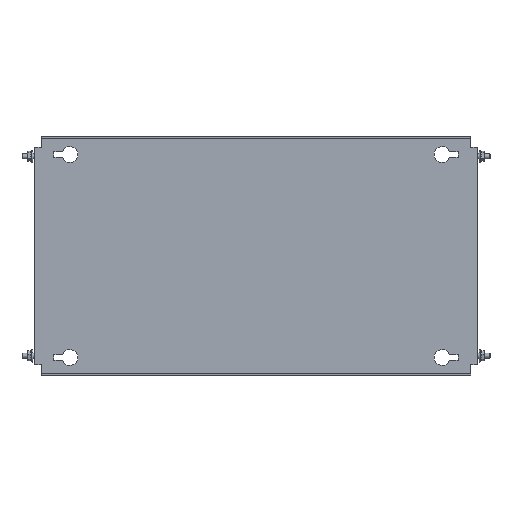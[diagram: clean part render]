
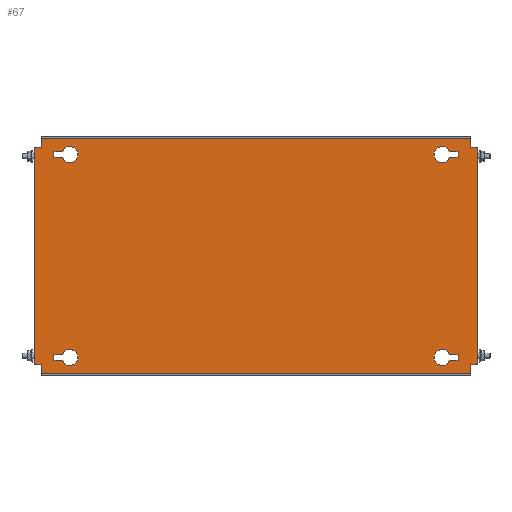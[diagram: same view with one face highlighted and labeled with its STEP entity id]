
A CAD part, top view. The second image highlights one B-rep face of the part: STEP entity #67.
In plain terms, the highlighted planar face has unit normal (0, 0, 1).
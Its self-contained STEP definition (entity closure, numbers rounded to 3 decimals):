
#67 = ADVANCED_FACE('',(#68,#103,#138,#300,#335),#370,.T.);
#68 = FACE_BOUND('',#69,.T.);
#69 = EDGE_LOOP('',(#70,#80,#88,#96));
#70 = ORIENTED_EDGE('',*,*,#71,.T.);
#71 = EDGE_CURVE('',#72,#74,#76,.T.);
#72 = VERTEX_POINT('',#73);
#73 = CARTESIAN_POINT('',(218.393,117.75,2.));
#74 = VERTEX_POINT('',#75);
#75 = CARTESIAN_POINT('',(228.,117.75,2.));
#76 = LINE('',#77,#78);
#77 = CARTESIAN_POINT('',(227.,117.75,2.));
#78 = VECTOR('',#79,1.);
#79 = DIRECTION('',(1.,0.,0.));
#80 = ORIENTED_EDGE('',*,*,#81,.T.);
#81 = EDGE_CURVE('',#74,#82,#84,.T.);
#82 = VERTEX_POINT('',#83);
#83 = CARTESIAN_POINT('',(228.,111.25,2.));
#84 = LINE('',#85,#86);
#85 = CARTESIAN_POINT('',(228.,117.75,2.));
#86 = VECTOR('',#87,1.);
#87 = DIRECTION('',(0.,-1.,0.));
#88 = ORIENTED_EDGE('',*,*,#89,.T.);
#89 = EDGE_CURVE('',#82,#90,#92,.T.);
#90 = VERTEX_POINT('',#91);
#91 = CARTESIAN_POINT('',(218.393,111.25,2.));
#92 = LINE('',#93,#94);
#93 = CARTESIAN_POINT('',(227.,111.25,2.));
#94 = VECTOR('',#95,1.);
#95 = DIRECTION('',(-1.,0.,0.));
#96 = ORIENTED_EDGE('',*,*,#97,.T.);
#97 = EDGE_CURVE('',#90,#72,#98,.T.);
#98 = CIRCLE('',#99,9.);
#99 = AXIS2_PLACEMENT_3D('',#100,#101,#102);
#100 = CARTESIAN_POINT('',(210.,114.5,2.));
#101 = DIRECTION('',(0.,0.,-1.));
#102 = DIRECTION('',(1.,0.,0.));
#103 = FACE_BOUND('',#104,.T.);
#104 = EDGE_LOOP('',(#105,#115,#123,#131));
#105 = ORIENTED_EDGE('',*,*,#106,.T.);
#106 = EDGE_CURVE('',#107,#109,#111,.T.);
#107 = VERTEX_POINT('',#108);
#108 = CARTESIAN_POINT('',(-218.393,-117.75,2.));
#109 = VERTEX_POINT('',#110);
#110 = CARTESIAN_POINT('',(-228.,-117.75,2.));
#111 = LINE('',#112,#113);
#112 = CARTESIAN_POINT('',(-227.,-117.75,2.));
#113 = VECTOR('',#114,1.);
#114 = DIRECTION('',(-1.,0.,0.));
#115 = ORIENTED_EDGE('',*,*,#116,.T.);
#116 = EDGE_CURVE('',#109,#117,#119,.T.);
#117 = VERTEX_POINT('',#118);
#118 = CARTESIAN_POINT('',(-228.,-111.25,2.));
#119 = LINE('',#120,#121);
#120 = CARTESIAN_POINT('',(-228.,-117.75,2.));
#121 = VECTOR('',#122,1.);
#122 = DIRECTION('',(0.,1.,0.));
#123 = ORIENTED_EDGE('',*,*,#124,.T.);
#124 = EDGE_CURVE('',#117,#125,#127,.T.);
#125 = VERTEX_POINT('',#126);
#126 = CARTESIAN_POINT('',(-218.393,-111.25,2.));
#127 = LINE('',#128,#129);
#128 = CARTESIAN_POINT('',(-227.,-111.25,2.));
#129 = VECTOR('',#130,1.);
#130 = DIRECTION('',(1.,-0.,-0.));
#131 = ORIENTED_EDGE('',*,*,#132,.T.);
#132 = EDGE_CURVE('',#125,#107,#133,.T.);
#133 = CIRCLE('',#134,9.);
#134 = AXIS2_PLACEMENT_3D('',#135,#136,#137);
#135 = CARTESIAN_POINT('',(-210.,-114.5,2.));
#136 = DIRECTION('',(0.,0.,-1.));
#137 = DIRECTION('',(-1.,0.,0.));
#138 = FACE_BOUND('',#139,.T.);
#139 = EDGE_LOOP('',(#140,#150,#158,#166,#174,#182,#190,#198,#206,#214,
    #222,#230,#238,#246,#254,#262,#270,#278,#286,#294));
#140 = ORIENTED_EDGE('',*,*,#141,.F.);
#141 = EDGE_CURVE('',#142,#144,#146,.T.);
#142 = VERTEX_POINT('',#143);
#143 = CARTESIAN_POINT('',(-247.4,122.5,2.));
#144 = VERTEX_POINT('',#145);
#145 = CARTESIAN_POINT('',(-242.,122.5,2.));
#146 = LINE('',#147,#148);
#147 = CARTESIAN_POINT('',(-248.,122.5,2.));
#148 = VECTOR('',#149,1.);
#149 = DIRECTION('',(1.,0.,-0.));
#150 = ORIENTED_EDGE('',*,*,#151,.T.);
#151 = EDGE_CURVE('',#142,#152,#154,.T.);
#152 = VERTEX_POINT('',#153);
#153 = CARTESIAN_POINT('',(-250.,122.5,2.));
#154 = LINE('',#155,#156);
#155 = CARTESIAN_POINT('',(-247.4,122.5,2.));
#156 = VECTOR('',#157,1.);
#157 = DIRECTION('',(-1.,0.,0.));
#158 = ORIENTED_EDGE('',*,*,#159,.F.);
#159 = EDGE_CURVE('',#160,#152,#162,.T.);
#160 = VERTEX_POINT('',#161);
#161 = CARTESIAN_POINT('',(-250.,-122.5,2.));
#162 = LINE('',#163,#164);
#163 = CARTESIAN_POINT('',(-250.,-132.5,2.));
#164 = VECTOR('',#165,1.);
#165 = DIRECTION('',(0.,1.,-0.));
#166 = ORIENTED_EDGE('',*,*,#167,.F.);
#167 = EDGE_CURVE('',#168,#160,#170,.T.);
#168 = VERTEX_POINT('',#169);
#169 = CARTESIAN_POINT('',(-247.4,-122.5,2.));
#170 = LINE('',#171,#172);
#171 = CARTESIAN_POINT('',(-242.,-122.5,2.));
#172 = VECTOR('',#173,1.);
#173 = DIRECTION('',(-1.,-0.,-0.));
#174 = ORIENTED_EDGE('',*,*,#175,.T.);
#175 = EDGE_CURVE('',#168,#176,#178,.T.);
#176 = VERTEX_POINT('',#177);
#177 = CARTESIAN_POINT('',(-242.,-122.5,2.));
#178 = LINE('',#179,#180);
#179 = CARTESIAN_POINT('',(-248.,-122.5,2.));
#180 = VECTOR('',#181,1.);
#181 = DIRECTION('',(1.,0.,-0.));
#182 = ORIENTED_EDGE('',*,*,#183,.T.);
#183 = EDGE_CURVE('',#176,#184,#186,.T.);
#184 = VERTEX_POINT('',#185);
#185 = CARTESIAN_POINT('',(-242.,-131.9,2.));
#186 = LINE('',#187,#188);
#187 = CARTESIAN_POINT('',(-242.,132.5,2.));
#188 = VECTOR('',#189,1.);
#189 = DIRECTION('',(0.,-1.,0.));
#190 = ORIENTED_EDGE('',*,*,#191,.T.);
#191 = EDGE_CURVE('',#184,#192,#194,.T.);
#192 = VERTEX_POINT('',#193);
#193 = CARTESIAN_POINT('',(-242.,-132.5,2.));
#194 = LINE('',#195,#196);
#195 = CARTESIAN_POINT('',(-242.,-131.9,2.));
#196 = VECTOR('',#197,1.);
#197 = DIRECTION('',(-0.,-1.,-0.));
#198 = ORIENTED_EDGE('',*,*,#199,.T.);
#199 = EDGE_CURVE('',#192,#200,#202,.T.);
#200 = VERTEX_POINT('',#201);
#201 = CARTESIAN_POINT('',(242.,-132.5,2.));
#202 = LINE('',#203,#204);
#203 = CARTESIAN_POINT('',(242.,-132.5,2.));
#204 = VECTOR('',#205,1.);
#205 = DIRECTION('',(1.,0.,0.));
#206 = ORIENTED_EDGE('',*,*,#207,.F.);
#207 = EDGE_CURVE('',#208,#200,#210,.T.);
#208 = VERTEX_POINT('',#209);
#209 = CARTESIAN_POINT('',(242.,-131.9,2.));
#210 = LINE('',#211,#212);
#211 = CARTESIAN_POINT('',(242.,-132.5,2.));
#212 = VECTOR('',#213,1.);
#213 = DIRECTION('',(0.,-1.,0.));
#214 = ORIENTED_EDGE('',*,*,#215,.T.);
#215 = EDGE_CURVE('',#208,#216,#218,.T.);
#216 = VERTEX_POINT('',#217);
#217 = CARTESIAN_POINT('',(242.,-122.5,2.));
#218 = LINE('',#219,#220);
#219 = CARTESIAN_POINT('',(242.,132.5,2.));
#220 = VECTOR('',#221,1.);
#221 = DIRECTION('',(0.,1.,-0.));
#222 = ORIENTED_EDGE('',*,*,#223,.F.);
#223 = EDGE_CURVE('',#224,#216,#226,.T.);
#224 = VERTEX_POINT('',#225);
#225 = CARTESIAN_POINT('',(247.4,-122.5,2.));
#226 = LINE('',#227,#228);
#227 = CARTESIAN_POINT('',(248.,-122.5,2.));
#228 = VECTOR('',#229,1.);
#229 = DIRECTION('',(-1.,0.,-0.));
#230 = ORIENTED_EDGE('',*,*,#231,.T.);
#231 = EDGE_CURVE('',#224,#232,#234,.T.);
#232 = VERTEX_POINT('',#233);
#233 = CARTESIAN_POINT('',(250.,-122.5,2.));
#234 = LINE('',#235,#236);
#235 = CARTESIAN_POINT('',(247.4,-122.5,2.));
#236 = VECTOR('',#237,1.);
#237 = DIRECTION('',(1.,-0.,0.));
#238 = ORIENTED_EDGE('',*,*,#239,.F.);
#239 = EDGE_CURVE('',#240,#232,#242,.T.);
#240 = VERTEX_POINT('',#241);
#241 = CARTESIAN_POINT('',(250.,122.5,2.));
#242 = LINE('',#243,#244);
#243 = CARTESIAN_POINT('',(250.,-132.5,2.));
#244 = VECTOR('',#245,1.);
#245 = DIRECTION('',(0.,-1.,-0.));
#246 = ORIENTED_EDGE('',*,*,#247,.F.);
#247 = EDGE_CURVE('',#248,#240,#250,.T.);
#248 = VERTEX_POINT('',#249);
#249 = CARTESIAN_POINT('',(247.4,122.5,2.));
#250 = LINE('',#251,#252);
#251 = CARTESIAN_POINT('',(-242.,122.5,2.));
#252 = VECTOR('',#253,1.);
#253 = DIRECTION('',(1.,-0.,0.));
#254 = ORIENTED_EDGE('',*,*,#255,.T.);
#255 = EDGE_CURVE('',#248,#256,#258,.T.);
#256 = VERTEX_POINT('',#257);
#257 = CARTESIAN_POINT('',(242.,122.5,2.));
#258 = LINE('',#259,#260);
#259 = CARTESIAN_POINT('',(248.,122.5,2.));
#260 = VECTOR('',#261,1.);
#261 = DIRECTION('',(-1.,0.,-0.));
#262 = ORIENTED_EDGE('',*,*,#263,.T.);
#263 = EDGE_CURVE('',#256,#264,#266,.T.);
#264 = VERTEX_POINT('',#265);
#265 = CARTESIAN_POINT('',(242.,131.9,2.));
#266 = LINE('',#267,#268);
#267 = CARTESIAN_POINT('',(242.,132.5,2.));
#268 = VECTOR('',#269,1.);
#269 = DIRECTION('',(0.,1.,-0.));
#270 = ORIENTED_EDGE('',*,*,#271,.T.);
#271 = EDGE_CURVE('',#264,#272,#274,.T.);
#272 = VERTEX_POINT('',#273);
#273 = CARTESIAN_POINT('',(242.,132.5,2.));
#274 = LINE('',#275,#276);
#275 = CARTESIAN_POINT('',(242.,131.9,2.));
#276 = VECTOR('',#277,1.);
#277 = DIRECTION('',(-0.,1.,-0.));
#278 = ORIENTED_EDGE('',*,*,#279,.T.);
#279 = EDGE_CURVE('',#272,#280,#282,.T.);
#280 = VERTEX_POINT('',#281);
#281 = CARTESIAN_POINT('',(-242.,132.5,2.));
#282 = LINE('',#283,#284);
#283 = CARTESIAN_POINT('',(-242.,132.5,2.));
#284 = VECTOR('',#285,1.);
#285 = DIRECTION('',(-1.,0.,0.));
#286 = ORIENTED_EDGE('',*,*,#287,.F.);
#287 = EDGE_CURVE('',#288,#280,#290,.T.);
#288 = VERTEX_POINT('',#289);
#289 = CARTESIAN_POINT('',(-242.,131.9,2.));
#290 = LINE('',#291,#292);
#291 = CARTESIAN_POINT('',(-242.,-132.5,2.));
#292 = VECTOR('',#293,1.);
#293 = DIRECTION('',(0.,1.,-0.));
#294 = ORIENTED_EDGE('',*,*,#295,.T.);
#295 = EDGE_CURVE('',#288,#144,#296,.T.);
#296 = LINE('',#297,#298);
#297 = CARTESIAN_POINT('',(-242.,132.5,2.));
#298 = VECTOR('',#299,1.);
#299 = DIRECTION('',(0.,-1.,0.));
#300 = FACE_BOUND('',#301,.T.);
#301 = EDGE_LOOP('',(#302,#312,#320,#328));
#302 = ORIENTED_EDGE('',*,*,#303,.F.);
#303 = EDGE_CURVE('',#304,#306,#308,.T.);
#304 = VERTEX_POINT('',#305);
#305 = CARTESIAN_POINT('',(228.,-111.25,2.));
#306 = VERTEX_POINT('',#307);
#307 = CARTESIAN_POINT('',(218.393,-111.25,2.));
#308 = LINE('',#309,#310);
#309 = CARTESIAN_POINT('',(218.393,-111.25,2.));
#310 = VECTOR('',#311,1.);
#311 = DIRECTION('',(-1.,0.,0.));
#312 = ORIENTED_EDGE('',*,*,#313,.F.);
#313 = EDGE_CURVE('',#314,#304,#316,.T.);
#314 = VERTEX_POINT('',#315);
#315 = CARTESIAN_POINT('',(228.,-117.75,2.));
#316 = LINE('',#317,#318);
#317 = CARTESIAN_POINT('',(228.,-111.25,2.));
#318 = VECTOR('',#319,1.);
#319 = DIRECTION('',(0.,1.,0.));
#320 = ORIENTED_EDGE('',*,*,#321,.F.);
#321 = EDGE_CURVE('',#322,#314,#324,.T.);
#322 = VERTEX_POINT('',#323);
#323 = CARTESIAN_POINT('',(218.393,-117.75,2.));
#324 = LINE('',#325,#326);
#325 = CARTESIAN_POINT('',(227.,-117.75,2.));
#326 = VECTOR('',#327,1.);
#327 = DIRECTION('',(1.,0.,0.));
#328 = ORIENTED_EDGE('',*,*,#329,.F.);
#329 = EDGE_CURVE('',#306,#322,#330,.T.);
#330 = CIRCLE('',#331,9.);
#331 = AXIS2_PLACEMENT_3D('',#332,#333,#334);
#332 = CARTESIAN_POINT('',(210.,-114.5,2.));
#333 = DIRECTION('',(0.,-0.,1.));
#334 = DIRECTION('',(1.,0.,0.));
#335 = FACE_BOUND('',#336,.T.);
#336 = EDGE_LOOP('',(#337,#347,#355,#363));
#337 = ORIENTED_EDGE('',*,*,#338,.F.);
#338 = EDGE_CURVE('',#339,#341,#343,.T.);
#339 = VERTEX_POINT('',#340);
#340 = CARTESIAN_POINT('',(-228.,111.25,2.));
#341 = VERTEX_POINT('',#342);
#342 = CARTESIAN_POINT('',(-218.393,111.25,2.));
#343 = LINE('',#344,#345);
#344 = CARTESIAN_POINT('',(-218.393,111.25,2.));
#345 = VECTOR('',#346,1.);
#346 = DIRECTION('',(1.,0.,0.));
#347 = ORIENTED_EDGE('',*,*,#348,.F.);
#348 = EDGE_CURVE('',#349,#339,#351,.T.);
#349 = VERTEX_POINT('',#350);
#350 = CARTESIAN_POINT('',(-228.,117.75,2.));
#351 = LINE('',#352,#353);
#352 = CARTESIAN_POINT('',(-228.,111.25,2.));
#353 = VECTOR('',#354,1.);
#354 = DIRECTION('',(0.,-1.,0.));
#355 = ORIENTED_EDGE('',*,*,#356,.F.);
#356 = EDGE_CURVE('',#357,#349,#359,.T.);
#357 = VERTEX_POINT('',#358);
#358 = CARTESIAN_POINT('',(-218.393,117.75,2.));
#359 = LINE('',#360,#361);
#360 = CARTESIAN_POINT('',(-227.,117.75,2.));
#361 = VECTOR('',#362,1.);
#362 = DIRECTION('',(-1.,0.,0.));
#363 = ORIENTED_EDGE('',*,*,#364,.F.);
#364 = EDGE_CURVE('',#341,#357,#365,.T.);
#365 = CIRCLE('',#366,9.);
#366 = AXIS2_PLACEMENT_3D('',#367,#368,#369);
#367 = CARTESIAN_POINT('',(-210.,114.5,2.));
#368 = DIRECTION('',(0.,-0.,1.));
#369 = DIRECTION('',(-1.,0.,0.));
#370 = PLANE('',#371);
#371 = AXIS2_PLACEMENT_3D('',#372,#373,#374);
#372 = CARTESIAN_POINT('',(-242.,-132.5,2.));
#373 = DIRECTION('',(-0.,0.,1.));
#374 = DIRECTION('',(1.,0.,0.));
